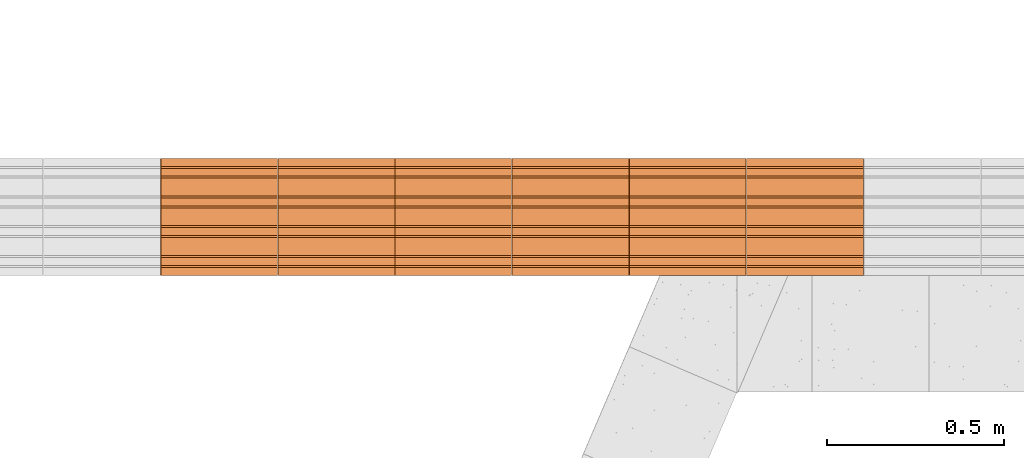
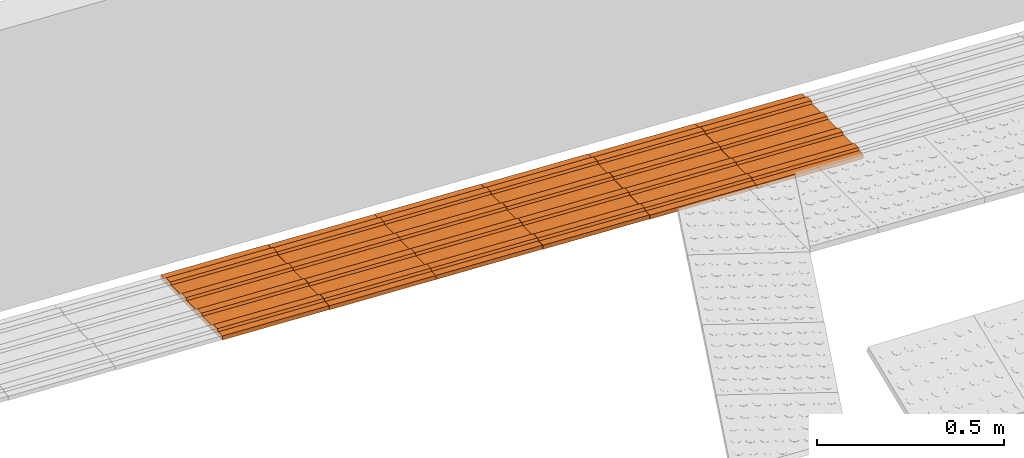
# One storey, part 159 of 237: 6 proxies.
"""IFC2X3 building model written with IfcOpenShell, lengths in millimetres."""

from ifc_helpers import new_model, entity, si_unit, converted_unit, derived_unit, money_unit, direction, frame, origin_with_axes, place, context, subcontext, project, spatial, open_shell, surface_model, source, transform, mapped, type_object, element, save


model = new_model("IFC2X3")

# Units and contexts
model_context = context("Model", 3, precision=0.01, world=origin_with_axes(), true_north=direction((0.0, 1.0)))
body_context = subcontext(model_context, "Body", "Model", "MODEL_VIEW")
ifc_project = project(units=[si_unit("LENGTHUNIT", "METRE", prefix="MILLI"), si_unit("AREAUNIT", "SQUARE_METRE"), si_unit("VOLUMEUNIT", "CUBIC_METRE"), converted_unit("PLANEANGLEUNIT", "DEGREE", entity("IfcPlaneAngleMeasure", 0.0174532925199), si_unit("PLANEANGLEUNIT", "RADIAN"), dimensions=[0, 0, 0, 0, 0, 0, 0]), money_unit("USD"), converted_unit("TIMEUNIT", "Year", entity("IfcTimeMeasure", 31556926.0), si_unit("TIMEUNIT", "SECOND"), dimensions=[0, 0, 1, 0, 0, 0, 0]), si_unit("MASSUNIT", "GRAM", prefix="KILO"), si_unit("THERMODYNAMICTEMPERATUREUNIT", "DEGREE_CELSIUS"), si_unit("LUMINOUSINTENSITYUNIT", "LUMEN"), si_unit("ENERGYUNIT", "JOULE", prefix="MEGA"), derived_unit("THERMALCONDUCTANCEUNIT", [(si_unit("POWERUNIT", "WATT"), 1), (si_unit("LENGTHUNIT", "METRE"), -1), (si_unit("THERMODYNAMICTEMPERATUREUNIT", "KELVIN"), -1)]), derived_unit("SPECIFICHEATCAPACITYUNIT", [(si_unit("ENERGYUNIT", "JOULE"), 1), (si_unit("MASSUNIT", "GRAM", prefix="KILO"), -1), (si_unit("THERMODYNAMICTEMPERATUREUNIT", "KELVIN"), -1)]), derived_unit("MASSDENSITYUNIT", [(si_unit("MASSUNIT", "GRAM", prefix="KILO"), 1), (si_unit("VOLUMEUNIT", "CUBIC_METRE"), -1)])], contexts=[model_context])

# Site, building, storey
site_placement = place(None, origin_with_axes())
site = spatial("IfcSite", under=ifc_project, at=site_placement, Name="Local", CompositionType="ELEMENT")
building_placement = place(site_placement, origin_with_axes())
building = spatial("IfcBuilding", under=site, at=building_placement, Name="Construção", CompositionType="ELEMENT")
storey_placement = place(building_placement, origin_with_axes())
storey = spatial("IfcBuildingStorey", under=building, at=storey_placement, Name="Pavimento Térreo", CompositionType="ELEMENT", Elevation=0.0)

# Proxies
building_element_proxy_type = type_object("IfcBuildingElementProxyType", Name="Piso Direcional 27", PredefinedType="NOTDEFINED")
shared_shape = source(origin_with_axes(), body_context, "Body", "SurfaceModel", [
    surface_model("IfcShellBasedSurfaceModel", [(-0.196792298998, -47.258225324, 4.02371099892), (329.409233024, -47.258225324, 20.1441350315), (329.083567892, -41.665004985, 26.8028426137), (-0.522457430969, -41.665004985, 10.6824185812)], [open_shell([[[0, 1, 2, 3]]])]),
    surface_model("IfcShellBasedSurfaceModel", [(330.060563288, -153.529411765, 6.82671986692), (330.060563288, 176.470588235, 6.82671986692), (329.409233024, 176.470588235, 20.1441350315), (329.409233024, 154.097706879, 20.1441350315), (329.083567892, 148.50448654, 26.8028426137), (329.083567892, 126.131605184, 26.8028426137), (329.409233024, 120.538384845, 20.1441350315), (329.409233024, 70.1994017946, 20.1441350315), (329.083567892, 64.6061814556, 26.8028426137), (329.083567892, 42.2333000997, 26.8028426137), (329.409233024, 36.6400797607, 20.1441350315), (329.409233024, -13.6989032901, 20.1441350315), (329.083567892, -19.2921236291, 26.8028426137), (329.083567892, -41.665004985, 26.8028426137), (329.409233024, -47.258225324, 20.1441350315), (329.409233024, -97.5972083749, 20.1441350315), (329.083567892, -103.190428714, 26.8028426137), (329.083567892, -125.56331007, 26.8028426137), (329.409233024, -131.156530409, 20.1441350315), (329.409233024, -153.529411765, 20.1441350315)], [open_shell([[[0, 1, 2, 3, 4, 5, 6, 7, 8, 9, 10, 11, 12, 13, 14, 15, 16, 17, 18, 19]]])]),
    surface_model("IfcShellBasedSurfaceModel", [(-0.522457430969, -19.2921236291, 10.6824185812), (329.083567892, -19.2921236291, 26.8028426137), (329.409233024, -13.6989032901, 20.1441350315), (-0.196792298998, -13.6989032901, 4.02371099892)], [open_shell([[[0, 1, 2, 3]]])]),
    surface_model("IfcShellBasedSurfaceModel", [(-0.522457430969, -103.190428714, 10.6824185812), (329.083567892, -103.190428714, 26.8028426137), (329.409233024, -97.5972083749, 20.1441350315), (-0.196792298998, -97.5972083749, 4.02371099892)], [open_shell([[[0, 1, 2, 3]]])]),
    surface_model("IfcShellBasedSurfaceModel", [(-0.522457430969, 64.6061814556, 10.6824185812), (329.083567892, 64.6061814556, 26.8028426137), (329.409233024, 70.1994017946, 20.1441350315), (-0.196792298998, 70.1994017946, 4.02371099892)], [open_shell([[[0, 1, 2, 3]]])]),
    surface_model("IfcShellBasedSurfaceModel", [(-0.196792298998, 36.6400797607, 4.02371099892), (329.409233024, 36.6400797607, 20.1441350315), (329.083567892, 42.2333000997, 26.8028426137), (-0.522457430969, 42.2333000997, 10.6824185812)], [open_shell([[[0, 1, 2, 3]]])]),
    surface_model("IfcShellBasedSurfaceModel", [(-0.196792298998, -131.156530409, 4.02371099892), (329.409233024, -131.156530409, 20.1441350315), (329.083567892, -125.56331007, 26.8028426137), (-0.522457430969, -125.56331007, 10.6824185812)], [open_shell([[[0, 1, 2, 3]]])]),
    surface_model("IfcShellBasedSurfaceModel", [(-0.196792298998, 176.470588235, 4.02371099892), (-0.196792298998, 154.097706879, 4.02371099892), (329.409233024, 154.097706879, 20.1441350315), (329.409233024, 176.470588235, 20.1441350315)], [open_shell([[[0, 1, 2, 3]]])]),
    surface_model("IfcShellBasedSurfaceModel", [(-0.196792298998, 120.538384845, 4.02371099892), (329.409233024, 120.538384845, 20.1441350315), (329.083567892, 126.131605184, 26.8028426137), (-0.522457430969, 126.131605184, 10.6824185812)], [open_shell([[[0, 1, 2, 3]]])]),
    surface_model("IfcShellBasedSurfaceModel", [(-0.522457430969, 148.50448654, 10.6824185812), (329.083567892, 148.50448654, 26.8028426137), (329.409233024, 154.097706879, 20.1441350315), (-0.196792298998, 154.097706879, 4.02371099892)], [open_shell([[[0, 1, 2, 3]]])]),
    surface_model("IfcShellBasedSurfaceModel", [(-0.196792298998, 36.6400797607, 4.02371099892), (-0.196792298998, -13.6989032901, 4.02371099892), (329.409233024, -13.6989032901, 20.1441350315), (329.409233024, 36.6400797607, 20.1441350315)], [open_shell([[[0, 1, 2, 3]]])]),
    surface_model("IfcShellBasedSurfaceModel", [(-0.196792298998, 120.538384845, 4.02371099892), (-0.196792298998, 70.1994017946, 4.02371099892), (329.409233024, 70.1994017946, 20.1441350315), (329.409233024, 120.538384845, 20.1441350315)], [open_shell([[[0, 1, 2, 3]]])]),
    surface_model("IfcShellBasedSurfaceModel", [(-0.522457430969, 148.50448654, 10.6824185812), (-0.522457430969, 126.131605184, 10.6824185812), (329.083567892, 126.131605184, 26.8028426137), (329.083567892, 148.50448654, 26.8028426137)], [open_shell([[[0, 1, 2, 3]]])]),
    surface_model("IfcShellBasedSurfaceModel", [(-0.196792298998, 120.538384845, 4.02371099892), (-0.522457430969, 126.131605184, 10.6824185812), (-0.522457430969, 148.50448654, 10.6824185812), (-0.196792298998, 154.097706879, 4.02371099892), (-0.196792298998, 176.470588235, 4.02371099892), (0.454537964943, 176.470588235, -9.29370416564), (0.454537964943, -153.529411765, -9.29370416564), (-0.196792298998, -153.529411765, 4.02371099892), (-0.196792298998, -131.156530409, 4.02371099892), (-0.522457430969, -125.56331007, 10.6824185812), (-0.522457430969, -103.190428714, 10.6824185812), (-0.196792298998, -97.5972083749, 4.02371099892), (-0.196792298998, -47.258225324, 4.02371099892), (-0.522457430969, -41.665004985, 10.6824185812), (-0.522457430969, -19.2921236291, 10.6824185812), (-0.196792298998, -13.6989032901, 4.02371099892), (-0.196792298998, 36.6400797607, 4.02371099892), (-0.522457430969, 42.2333000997, 10.6824185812), (-0.522457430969, 64.6061814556, 10.6824185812), (-0.196792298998, 70.1994017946, 4.02371099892)], [open_shell([[[0, 1, 2, 3, 4, 5, 6, 7, 8, 9, 10, 11, 12, 13, 14, 15, 16, 17, 18, 19]]])]),
    surface_model("IfcShellBasedSurfaceModel", [(329.083567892, -41.665004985, 26.8028426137), (329.083567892, -19.2921236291, 26.8028426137), (-0.522457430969, -19.2921236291, 10.6824185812), (-0.522457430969, -41.665004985, 10.6824185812)], [open_shell([[[0, 1, 2, 3]]])]),
    surface_model("IfcShellBasedSurfaceModel", [(-0.196792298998, -47.258225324, 4.02371099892), (-0.196792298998, -97.5972083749, 4.02371099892), (329.409233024, -97.5972083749, 20.1441350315), (329.409233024, -47.258225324, 20.1441350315)], [open_shell([[[0, 1, 2, 3]]])]),
    surface_model("IfcShellBasedSurfaceModel", [(329.083567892, 42.2333000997, 26.8028426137), (329.083567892, 64.6061814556, 26.8028426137), (-0.522457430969, 64.6061814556, 10.6824185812), (-0.522457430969, 42.2333000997, 10.6824185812)], [open_shell([[[0, 1, 2, 3]]])]),
    surface_model("IfcShellBasedSurfaceModel", [(329.083567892, -125.56331007, 26.8028426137), (329.083567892, -103.190428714, 26.8028426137), (-0.522457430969, -103.190428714, 10.6824185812), (-0.522457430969, -125.56331007, 10.6824185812)], [open_shell([[[0, 1, 2, 3]]])]),
    surface_model("IfcShellBasedSurfaceModel", [(330.060563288, 176.470588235, 6.82671986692), (0.454537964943, 176.470588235, -9.29370416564), (-0.196792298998, 176.470588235, 4.02371099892), (329.409233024, 176.470588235, 20.1441350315)], [open_shell([[[0, 1, 2, 3]]])]),
    surface_model("IfcShellBasedSurfaceModel", [(330.060563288, -153.529411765, 6.82671986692), (0.454537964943, -153.529411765, -9.29370416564), (0.454537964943, 176.470588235, -9.29370416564), (330.060563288, 176.470588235, 6.82671986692)], [open_shell([[[0, 1, 2, 3]]])]),
    surface_model("IfcShellBasedSurfaceModel", [(329.409233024, -153.529411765, 20.1441350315), (329.409233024, -131.156530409, 20.1441350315), (-0.196792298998, -131.156530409, 4.02371099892), (-0.196792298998, -153.529411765, 4.02371099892)], [open_shell([[[0, 1, 2, 3]]])]),
    surface_model("IfcShellBasedSurfaceModel", [(0.454537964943, -153.529411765, -9.29370416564), (330.060563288, -153.529411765, 6.82671986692), (329.409233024, -153.529411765, 20.1441350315), (-0.196792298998, -153.529411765, 4.02371099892)], [open_shell([[[0, 1, 2, 3]]])]),
])
for number, where, z_axis, x_axis, name in (
    (1, (31735.5447107, 10834.0941893, -2610.44148412), (0.0, 0.0, 1.0), (-1.0, 0.0, 0.0), "Objeto-0055"),
    (2, (31404.6195641, 10834.0941893, -2593.20754432), (0.0, 0.0, 1.0), (-1.0, 0.0, 0.0), "Objeto-0055"),
    (3, (31073.6944174, 10834.0941893, -2575.97360452), (0.0, 0.0, 1.0), (-1.0, 0.0, 0.0), "Objeto-0055"),
    (4, (30742.7692708, 10834.0941893, -2558.73966472), (0.0, 0.0, 1.0), (-1.0, 0.0, 0.0), "Objeto-0055"),
    (5, (30413.1632454, 10834.0941893, -2542.61924069), (0.0, 0.0, 1.0), (-1.0, 0.0, 0.0), "Objeto-0055"),
    (6, (30082.2380988, 10834.0941893, -2525.38530089), (0.0, 0.0, 1.0), (-1.0, 0.0, 0.0), "Objeto-0055"),
):
    element("IfcBuildingElementProxy", number, at=place(storey_placement, frame(where, z_axis=z_axis, x_axis=x_axis)), inside=storey, type_object=building_element_proxy_type, Name=name, context=body_context, shape_type="MappedRepresentation", body=[
        mapped(shared_shape, transform((0.0, 0.0, 0.0))),
    ])

save(model, "model.ifc")
